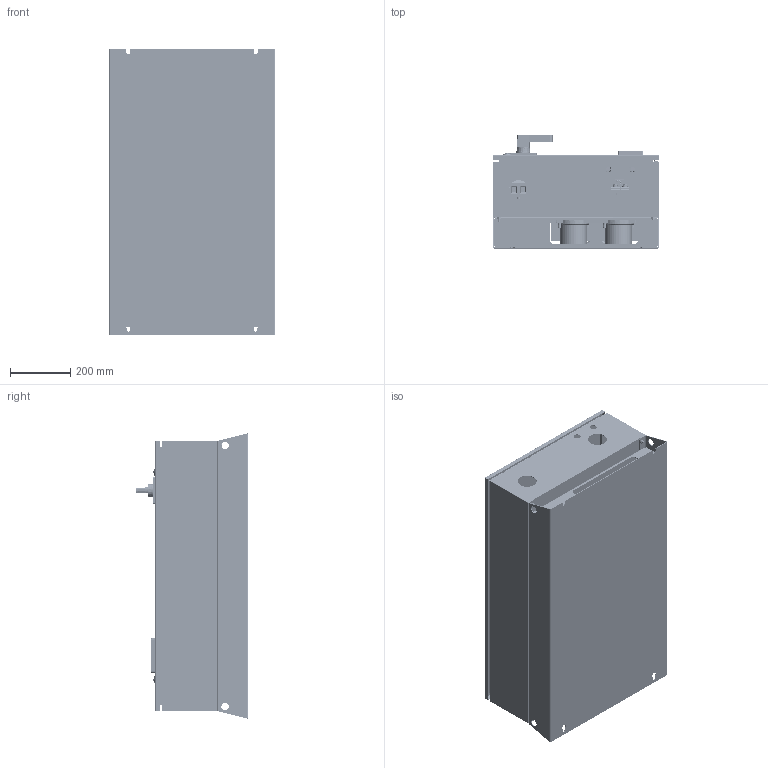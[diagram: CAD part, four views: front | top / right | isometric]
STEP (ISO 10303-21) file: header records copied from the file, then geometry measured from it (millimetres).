
FILE_DESCRIPTION((''),'2;1');
FILE_NAME('CIMR-AC4A0088TAA-0095_ASM','2012-05-23T',('na'),('YASKAWA ELECTRIC CORCORATION'),'PRO/ENGINEER BY PARAMETRIC TECHNOLOGY CORPORATION, 2008490','PRO/ENGINEER BY PARAMETRIC TECHNOLOGY CORPORATION, 2008490','');
FILE_SCHEMA(('CONFIG_CONTROL_DESIGN'));
Length unit declared in the file: millimetre
Products named in the file (157): ECAU21055-1; ECAU21056-1; ECAU21057-1; M8_CLINCH; ECAU21054_ASM; ECAU21051-1; ECAU21051_1_1A; ECAU21051_1_3; BT02A_M8X20; ECAU21052-1; NC_ETS_M6_T1P5; ECAU21051_ASM; SCBT41019-5; SCBT41020-5; BT02A_M8X16; LAY-AC4A0088UAA; HSGT31726_1_AF0; HSGT31726_ASM; ECAU31512_1_1; ECAU31512_1_3; ECAU31512_1_ASM; ECAU31512_2_1; ECAU31512_2_ASM; ECAU31512_6; ECAU31512_7; ECAU31512_ASM; PGAU31010; SPAU30312; SPAU30163_1; SPAU30163_2; SPAU30162_3; SPAU30163_5; SPAU30163_ASM; 3615KL-05W-B60-EQ1_1; SPAU30164; 3610VL-05W-B60-BQ1_1; T-30F_IP54_B; MS15_M4X45; MS15_M4X35; WSZT41066-2_T16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
Assembly tree (352 placements, depth 7):
  CIMR-AC4A0088TAA-0095_ASM
    ECAU21054_ASM
      ECAU21055-1
      ECAU21056-1
      ECAU21057-1
      M8_CLINCH  x4
    ECAU21051_ASM
      ECAU21051-1
      ECAU21051_1_1A  x2
      ECAU21051_1_3  x2
      BT02A_M8X20
      ECAU21052-1
      NC_ETS_M6_T1P5  x21
    SCBT41019-5  x6
    SCBT41020-5  x4
    BT02A_M8X16  x4
    71616-AC4A0088TAA-XXXX_ASM
      LAY-AC4A0088UAA
      HSGT31726_ASM
        HSGT31726_1_AF0
      ECAU31512_ASM
        ECAU31512_1_ASM
          ECAU31512_1_1
          ECAU31512_1_3  x2
        ECAU31512_2_ASM
          ECAU31512_2_1
        ECAU31512_6  x8
        ECAU31512_7  x4
      PGAU31010
      SPAU30312
      ASSY-AC4A0088_0103TAA-FAN_UNIT_ASM
        SPAU30163_ASM
          SPAU30163_1
          SPAU30163_2
          SPAU30162_3
          SPAU30163_5  x4
        3615KL-05W-B60-EQ1_1  x2
        SPAU30164
        3610VL-05W-B60-BQ1_1
        T-30F_IP54_B  x2
        MS15_M4X45  x4
        MS15_M4X35  x2
        WSZT41066-2_T16
        DF3-2EP-2C  x2
        PGAU31012
        MS15_M4X10  x2
        ASSY_INT_FAN_PCB_TAAALL_ASM
          ETB30080_ASM
            ETB30080
            B02B-XASK-1  x3
            B03B-XASK-1
          NA-405
          NB-400
          KGLS-3S_I2
      PGAU31011
      MS15_M4X12  x3
      MS15_M4X10  x33
      MS15_M4X25  x4
      PGAU31013
      ASSY-AC4A0088WAA_C-BLOCK_ASM
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Bounding box: 553.5 x 375.5 x 950 mm (x, y, z)
Volume: 20669013.5 mm3; surface area: 7712757 mm2
Topology: 393 solids, 393 shells, 12743 faces, 30925 edges, 19626 vertices
Faces by surface type: plane 6945, cylinder 3922, cone 788, torus 624, bspline 260, sphere 204
Entity records: 280281 total; most frequent: CARTESIAN_POINT 64023, DIRECTION 44657, ORIENTED_EDGE 43716, EDGE_CURVE 21858, VECTOR 15209, LINE 15209, AXIS2_PLACEMENT_3D 14724, VERTEX_POINT 14019
